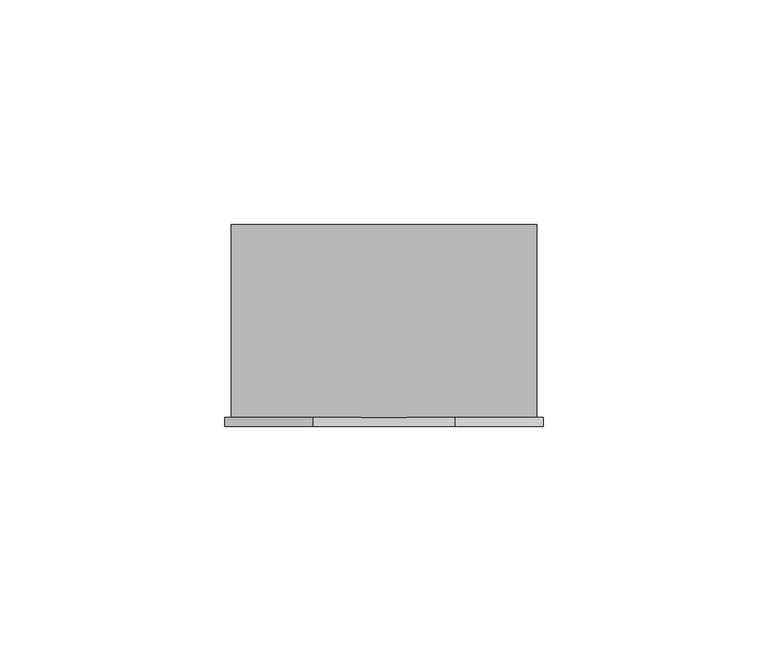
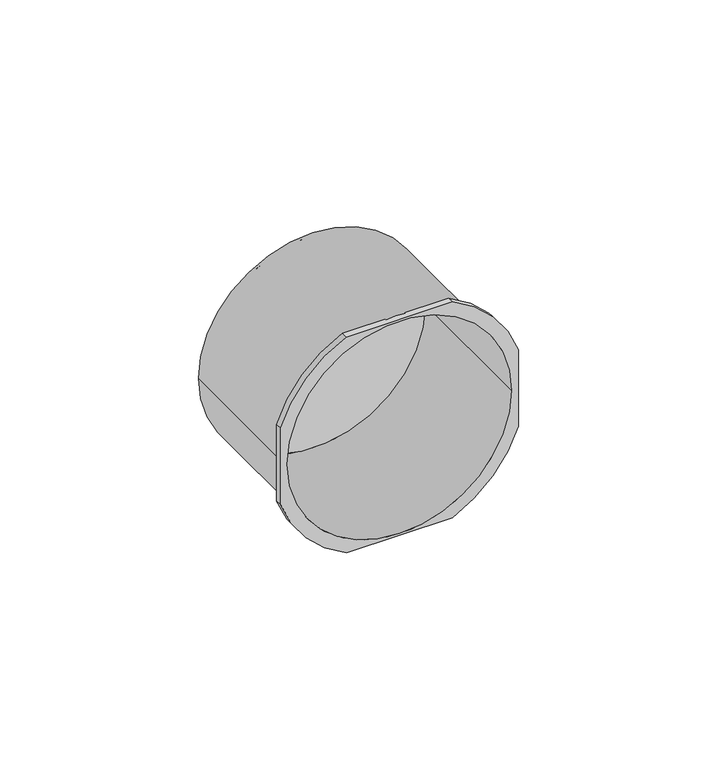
"""IFC4 building model written with IfcOpenShell, lengths in millimetres: proxy geometry."""

import ifcopenshell
import ifcopenshell.guid

model = None  # the IFC model being written
_history = None  # IfcOwnerHistory: only IFC2X3 demands one
_inside = {}  # id of a spatial element -> (the spatial element, [elements in it])
_under = {}  # id of a project, library or spatial element -> (it, [spatial elements below it])
_declared = {}  # id of a project -> (the project, [libraries it declares])
_typed = {}  # id of a type object -> (the type object, [elements of that type])
_made_of = {}  # id of a material, layer set ... -> (it, [elements and type objects made of it])


def new_model(schema):
    """Start an empty IFC model of exactly this schema.

    Asked for "IFC4X3", IfcOpenShell would pick the latest addendum, in which some entities
    have other attributes; the version numbers below select the first issue.
    IFC2X3 requires an IfcOwnerHistory on every rooted entity: one is made here for all.
    """
    global model, _history
    if schema == "IFC4X3":
        model = ifcopenshell.file(schema_version=(4, 3, 0, 0))
    else:
        model = ifcopenshell.file(schema=schema)
    _inside.clear()
    _under.clear()
    _declared.clear()
    _typed.clear()
    _made_of.clear()
    _history = None
    if model.schema == "IFC2X3":
        org = make("IfcOrganization", Name="unknown")
        user = make(
            "IfcPersonAndOrganization",
            ThePerson=make("IfcPerson", FamilyName="unknown"),
            TheOrganization=org,
        )
        app = make(
            "IfcApplication",
            ApplicationDeveloper=org,
            Version="unknown",
            ApplicationFullName="unknown",
            ApplicationIdentifier="unknown",
        )
        _history = make(
            "IfcOwnerHistory",
            OwningUser=user,
            OwningApplication=app,
            ChangeAction="ADDED",
            CreationDate=0,
        )
    return model


def make(cls, **values):
    """One entity of the class cls with the attributes given. An attribute that is None is left unset."""
    return model.create_entity(
        cls, **{name: value for name, value in values.items() if value is not None}
    )


def rooted(cls, **values):
    """An entity with a GlobalId (a new one), such as an element, a storey or a relation."""
    return make(cls, GlobalId=ifcopenshell.guid.new(), OwnerHistory=_history, **values)


def si_unit(unit_type, name, prefix=None):
    """IfcSIUnit, for example si_unit("LENGTHUNIT", "METRE", prefix="MILLI")."""
    return make("IfcSIUnit", UnitType=unit_type, Prefix=prefix, Name=name)


def assignment(units):
    """IfcUnitAssignment: the units of a project."""
    return None if units is None else make("IfcUnitAssignment", Units=units)


def point(xyz):
    """IfcCartesianPoint."""
    return None if xyz is None else make("IfcCartesianPoint", Coordinates=xyz)


def direction(xyz):
    """IfcDirection."""
    return None if xyz is None else make("IfcDirection", DirectionRatios=xyz)


def frame(location, z_axis=None, x_axis=None):
    """IfcAxis2Placement3D, a coordinate frame: its origin and axes. An axis left out is left unset."""
    return make(
        "IfcAxis2Placement3D",
        Location=point(location),
        Axis=direction(z_axis),
        RefDirection=direction(x_axis),
    )


def origin():
    """The frame at (0, 0, 0) with its axes left unset."""
    return frame((0.0, 0.0, 0.0))


def place(relative_to, where):
    """IfcLocalPlacement: puts the frame where relative to a parent placement (None: the world)."""
    return make(
        "IfcLocalPlacement", PlacementRelTo=relative_to, RelativePlacement=where
    )


def context(
    kind, dimensions, precision=None, world=None, true_north=None, identifier=None
):
    """IfcGeometricRepresentationContext, for example the 3D "Model" context."""
    return make(
        "IfcGeometricRepresentationContext",
        ContextIdentifier=identifier,
        ContextType=kind,
        CoordinateSpaceDimension=dimensions,
        Precision=precision,
        WorldCoordinateSystem=world,
        TrueNorth=true_north,
    )


def project(units=None, contexts=None):
    """IfcProject with its units and contexts."""
    return rooted(
        "IfcProject",
        Name="project",
        RepresentationContexts=contexts,
        UnitsInContext=assignment(units),
    )


def spatial(cls, under=None, at=None, **own):
    """A site, building, storey or space (cls), placed at a placement, below another one or the project."""
    s = rooted(cls, ObjectPlacement=at, **own)
    if under is not None:
        _under.setdefault(under.id(), (under, []))[1].append(s)
    return s


def polyline(points):
    """IfcPolyline through the points."""
    return make("IfcPolyline", Points=[point(p) for p in points])


def circle_curve(where, radius):
    """IfcCircle in the frame where."""
    return make("IfcCircle", Position=where, Radius=radius)


def shape(context_of_items, identifier, shape_type, items):
    """IfcShapeRepresentation: the items that make up one representation, for example the "Body"."""
    return make(
        "IfcShapeRepresentation",
        ContextOfItems=context_of_items,
        RepresentationIdentifier=identifier,
        RepresentationType=shape_type,
        Items=items,
    )


def source(mapping_origin, context_of_items, identifier, shape_type, items):
    """IfcRepresentationMap: a shape defined once, which mapped items show again and again."""
    return make(
        "IfcRepresentationMap",
        MappingOrigin=mapping_origin,
        MappedRepresentation=shape(context_of_items, identifier, shape_type, items),
    )


def transform(
    local_origin,
    x_axis=None,
    y_axis=None,
    z_axis=None,
    scale=None,
    scale2=None,
    scale3=None,
    uniform=True,
):
    """IfcCartesianTransformationOperator3D, or its non-uniform kind. x_axis, y_axis, z_axis: its Axis1, 2, 3."""
    if uniform:
        return make(
            "IfcCartesianTransformationOperator3D",
            Axis1=direction(x_axis),
            Axis2=direction(y_axis),
            LocalOrigin=point(local_origin),
            Scale=scale,
            Axis3=direction(z_axis),
        )
    return make(
        "IfcCartesianTransformationOperator3DnonUniform",
        Axis1=direction(x_axis),
        Axis2=direction(y_axis),
        LocalOrigin=point(local_origin),
        Scale=scale,
        Axis3=direction(z_axis),
        Scale2=scale2,
        Scale3=scale3,
    )


def mapped(mapping_source, mapping_target):
    """IfcMappedItem: shows the shape of a source again, moved by a transform."""
    return make(
        "IfcMappedItem", MappingSource=mapping_source, MappingTarget=mapping_target
    )


def made_of(thing, what):
    """Note that an element or type object is made of a material, layer set ...; save() writes the relation."""
    if what is not None:
        _made_of.setdefault(what.id(), (what, []))[1].append(thing)
    return thing


def element(
    cls,
    number,
    at=None,
    inside=None,
    cuts=None,
    type_object=None,
    material=None,
    context=None,
    identifier="Body",
    shape_type=None,
    held_by="IfcProductDefinitionShape",
    body=None,
    shapes=None,
    **own,
):
    """One element of the class cls, such as IfcWall. Its Tag is "e" and its number.

    at: its placement. inside: the storey or other place that contains it. cuts: it is an
    opening in that element (IfcRelVoidsElement). A single representation is given by context,
    identifier, shape_type and body (its items); several are given by shapes. held_by: the class
    of the entity that holds the representations. save() writes the other relations.
    """
    e = rooted(cls, Tag="e%d" % number, ObjectPlacement=at, **own)
    if body is not None:
        shapes = [shape(context, identifier, shape_type, body)]
    if shapes is not None:
        e.Representation = make(held_by, Representations=shapes)
    if inside is not None:
        _inside.setdefault(inside.id(), (inside, []))[1].append(e)
    if cuts is not None:
        rooted(
            "IfcRelVoidsElement", RelatingBuildingElement=cuts, RelatedOpeningElement=e
        )
    if type_object is not None:
        _typed.setdefault(type_object.id(), (type_object, []))[1].append(e)
    return made_of(e, material)


def aggregate(whole, parts):
    """IfcRelAggregates: a whole, such as a stair, and the parts it consists of."""
    return rooted("IfcRelAggregates", RelatingObject=whole, RelatedObjects=parts)


def save(model, path):
    """Write the relations noted so far, then the file.

    IfcRelAggregates (storeys below a building ...), IfcRelContainedInSpatialStructure (elements
    in a storey), IfcRelDefinesByType, IfcRelAssociatesMaterial and IfcRelDeclares: one each for
    every whole, place, type object, material and project.
    """
    for whole, parts in _under.values():
        aggregate(whole, parts)
    for where, things in _inside.values():
        rooted(
            "IfcRelContainedInSpatialStructure",
            RelatedElements=things,
            RelatingStructure=where,
        )
    for kind, things in _typed.values():
        rooted("IfcRelDefinesByType", RelatedObjects=things, RelatingType=kind)
    for what, things in _made_of.values():
        rooted("IfcRelAssociatesMaterial", RelatedObjects=things, RelatingMaterial=what)
    for by, libraries in _declared.values():
        rooted("IfcRelDeclares", RelatingContext=by, RelatedDefinitions=libraries)
    model.write(path)


def plane_surface(at):
    """IfcPlane: the flat surface through the origin of the frame at, square to its z axis."""
    return make("IfcPlane", Position=at)


def cylinder_surface(at, radius):
    """IfcCylindricalSurface: all points at the distance radius from the z axis of the frame at."""
    return make("IfcCylindricalSurface", Position=at, Radius=radius)


def revolved_surface(curve, axis_point, axis_direction):
    """IfcSurfaceOfRevolution: the curve turned about the line through axis_point along axis_direction."""
    return make(
        "IfcSurfaceOfRevolution",
        SweptCurve=make("IfcArbitraryOpenProfileDef", ProfileType="CURVE", Curve=curve),
        AxisPosition=make("IfcAxis1Placement", Location=point(axis_point), Axis=direction(axis_direction)),
    )


def advanced_brep(points, edges, surfaces, faces):
    """IfcAdvancedBrep: a solid bounded by faces that lie on surfaces and meet in shared edges.

    An edge is (start, end): straight between two places in points (the first is 0);
    or (start, end, curve); or (start, end, curve, False) where it runs against its curve.
    A face is (place in surfaces, loops), or (place, loops, False) where it looks against
    its surface's normal. A loop lists edges by number (the first is 1), with a minus sign
    where the edge is run from its end to its start. The first loop is the outer one.
    """
    corners = [point(p) for p in points]
    vertices = [make("IfcVertexPoint", VertexGeometry=c) for c in corners]
    made = []
    for start, end, *more in edges:
        made.append(
            make(
                "IfcEdgeCurve",
                EdgeStart=vertices[start],
                EdgeEnd=vertices[end],
                EdgeGeometry=more[0] if more else make("IfcPolyline", Points=[corners[start], corners[end]]),
                SameSense=more[1] if len(more) > 1 else True,
            )
        )
    hull = []
    for where, loops, *sense in faces:
        bounds = []
        for j, loop in enumerate(loops):
            ring = [make("IfcOrientedEdge", EdgeElement=made[abs(k) - 1], Orientation=k > 0) for k in loop]
            bounds.append(
                make(
                    "IfcFaceOuterBound" if j == 0 else "IfcFaceBound",
                    Bound=make("IfcEdgeLoop", EdgeList=ring),
                    Orientation=True,
                )
            )
        hull.append(make("IfcAdvancedFace", Bounds=bounds, FaceSurface=surfaces[where], SameSense=sense[0] if sense else True))
    return make("IfcAdvancedBrep", Outer=make("IfcClosedShell", CfsFaces=hull))


def electrical_fixtures_96f9c914(model_context):
    return source(origin(), model_context, "Body", "AdvancedBrep", [
        advanced_brep(
        [(-33.5, 9.8, 0.0), (33.5, 9.8, 0.0), (33.5, -34.7, 0.0), (-33.5, -34.7, 0.0), (-34.0, 10.3, 0.0), (34.0, 10.3, 0.0), (-15.8034878, -34.7, 34.0), (-35.5, -34.7, 12.0623474), (-35.5, -34.7, -12.0623474), (-15.8034878, -34.7, -34.0), (15.8034878, -34.7, -34.0), (35.5, -34.7, -12.0623474), (35.5, -34.7, 12.0623474), (15.8034878, -34.7, 34.0), (-34.0, -32.7, 0.0), (0.0, -32.7, 34.0), (34.0, -32.7, 0.0), (0.0, -32.7, -34.0), (15.8034878, -32.7, 34.0), (35.5, -32.7, 12.0623474), (35.5, -32.7, -12.0623474), (15.8034878, -32.7, -34.0), (-15.8034878, -32.7, -34.0), (-35.5, -32.7, -12.0623474), (-35.5, -32.7, 12.0623474), (-15.8034878, -32.7, 34.0)],
        [
            (0, 1, circle_curve(frame((0.0, 9.8, 0.0), z_axis=(0.0, -1.0, 0.0), x_axis=(1.0, 0.0, 0.0)), 33.5)),
            (1, 0, circle_curve(frame((0.0, 9.8, 0.0), z_axis=(0.0, -1.0, 0.0), x_axis=(1.0, 0.0, 0.0)), 33.5)),
            (1, 2),
            (2, 3, circle_curve(frame((0.0, -34.7, 0.0), z_axis=(0.0, -1.0, 0.0), x_axis=(1.0, 0.0, 0.0)), 33.5)),
            (3, 0),
            (3, 2, circle_curve(frame((0.0, -34.7, 0.0), z_axis=(0.0, -1.0, 0.0), x_axis=(1.0, 0.0, 0.0)), 33.5)),
            (4, 5, circle_curve(frame((0.0, 10.3, 0.0), z_axis=(0.0, 1.0, 0.0), x_axis=(1.0, 0.0, 0.0)), 34.0)),
            (5, 4, circle_curve(frame((0.0, 10.3, 0.0), z_axis=(0.0, 1.0, 0.0), x_axis=(1.0, 0.0, 0.0)), 34.0)),
            (6, 7, circle_curve(frame((0.0, -34.7, 0.0), z_axis=(0.0, -1.0, 0.0), x_axis=(1.0, 0.0, 0.0)), 37.4933357)),
            (7, 8),
            (8, 9, circle_curve(frame((0.0, -34.7, 0.0), z_axis=(0.0, -1.0, 0.0), x_axis=(1.0, 0.0, 0.0)), 37.4933357)),
            (9, 10),
            (10, 11, circle_curve(frame((0.0, -34.7, 0.0), z_axis=(0.0, -1.0, 0.0), x_axis=(1.0, 0.0, 0.0)), 37.4933357)),
            (11, 12),
            (12, 13, circle_curve(frame((0.0, -34.7, 0.0), z_axis=(0.0, -1.0, 0.0), x_axis=(1.0, 0.0, 0.0)), 37.4933357)),
            (13, 6),
            (4, 14),
            (14, 15, circle_curve(frame((0.0, -32.7, 0.0), z_axis=(0.0, 1.0, 0.0), x_axis=(1.0, 0.0, 0.0)), 34.0)),
            (15, 16, circle_curve(frame((0.0, -32.7, 0.0), z_axis=(0.0, 1.0, 0.0), x_axis=(1.0, 0.0, 0.0)), 34.0)),
            (16, 5),
            (16, 17, circle_curve(frame((0.0, -32.7, 0.0), z_axis=(0.0, 1.0, 0.0), x_axis=(1.0, 0.0, 0.0)), 34.0)),
            (17, 14, circle_curve(frame((0.0, -32.7, 0.0), z_axis=(0.0, 1.0, 0.0), x_axis=(1.0, 0.0, 0.0)), 34.0)),
            (18, 19, circle_curve(frame((0.0, -32.7, 0.0), z_axis=(0.0, 1.0, 0.0), x_axis=(1.0, 0.0, 0.0)), 37.4933357)),
            (19, 20),
            (20, 21, circle_curve(frame((0.0, -32.7, 0.0), z_axis=(0.0, 1.0, 0.0), x_axis=(1.0, 0.0, 0.0)), 37.4933357)),
            (21, 17),
            (15, 18),
            (22, 23, circle_curve(frame((0.0, -32.7, 0.0), z_axis=(0.0, 1.0, 0.0), x_axis=(1.0, 0.0, 0.0)), 37.4933357)),
            (23, 24),
            (24, 25, circle_curve(frame((0.0, -32.7, 0.0), z_axis=(0.0, 1.0, 0.0), x_axis=(1.0, 0.0, 0.0)), 37.4933357)),
            (25, 15),
            (17, 22),
            (25, 6),
            (13, 18),
            (12, 19),
            (11, 20),
            (10, 21),
            (9, 22),
            (8, 23),
            (7, 24),
        ],
        [
            plane_surface(frame((33.5, 9.8, 0.0), z_axis=(0.0, -1.0, 0.0), x_axis=(0.0, 0.0, -1.0))),
            revolved_surface(polyline([(33.5, 9.799999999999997, 0.0), (33.5, -34.7, 0.0)]), (0.0, -34.7, 0.0), (0.0, 1.0, 0.0)),
            plane_surface(frame((34.0, 10.3, 0.0), z_axis=(0.0, 1.0, 0.0), x_axis=(0.0, 0.0, -1.0))),
            plane_surface(frame((34.0, -34.7, 0.0), z_axis=(0.0, -1.0, 0.0), x_axis=(0.0, 0.0, 1.0))),
            cylinder_surface(frame((0.0, -34.7, 0.0), z_axis=(0.0, 1.0, 0.0), x_axis=(1.0, 0.0, 0.0)), 34.0),
            plane_surface(frame((-23.0053863, -32.7, 34.0), z_axis=(0.0, 1.0, 0.0), x_axis=(1.0, 0.0, 0.0))),
            plane_surface(frame((-15.8034878, -32.7, 34.0), z_axis=(0.0, 0.0, 1.0), x_axis=(0.0, -1.0, 0.0))),
            cylinder_surface(frame((0.0, -34.7, 0.0), z_axis=(0.0, 1.0, 0.0), x_axis=(1.0, 0.0, 0.0)), 37.4933357),
            plane_surface(frame((35.5, -32.7, 12.0623474), z_axis=(1.0, 0.0, 0.0), x_axis=(0.0, -1.0, 0.0))),
            plane_surface(frame((15.8034878, -32.7, -34.0), z_axis=(0.0, 0.0, -1.0), x_axis=(0.0, -1.0, 0.0))),
            plane_surface(frame((-35.5, -32.7, -12.0623474), z_axis=(-1.0, 0.0, 0.0), x_axis=(0.0, -1.0, 0.0))),
        ],
        [
            (0, [[1, 2]]),
            (1, [[-2, 3, 4, 5]]),
            (1, [[-1, -5, 6, -3]]),
            (2, [[7, 8]]),
            (3, [[9, 10, 11, 12, 13, 14, 15, 16], [-4, -6]]),
            (4, [[-7, 17, 18, 19, 20]]),
            (4, [[-8, -20, 21, 22, -17]]),
            (5, [[23, 24, 25, 26, -21, -19, 27]]),
            (5, [[28, 29, 30, 31, -18, -22, 32]]),
            (6, [[33, -16, 34, -27, -31]]),
            (7, [[-23, -34, -15, 35]]),
            (8, [[-24, -35, -14, 36]]),
            (7, [[-25, -36, -13, 37]]),
            (9, [[-37, -12, 38, -32, -26]]),
            (7, [[-28, -38, -11, 39]]),
            (10, [[-29, -39, -10, 40]]),
            (7, [[-30, -40, -9, -33]]),
        ],
    ),
    ])


if __name__ == "__main__":
    model = new_model("IFC4")
    model_context = context("Model", 3, world=origin())
    ifc_project = project(units=[si_unit("LENGTHUNIT", "METRE", prefix="MILLI")], contexts=[model_context])
    site = spatial("IfcSite", under=ifc_project)
    building = spatial("IfcBuilding", under=site)
    placement = place(None, origin())
    electrical_fixtures_shape = electrical_fixtures_96f9c914(model_context)
    element("IfcBuildingElementProxy", 1, Name="Electrical Fixtures", at=placement, inside=building, context=model_context, shape_type="MappedRepresentation", body=[
        mapped(electrical_fixtures_shape, transform((0.0, 0.0, 0.0), x_axis=(1.0, 0.0, 0.0), y_axis=(0.0, 1.0, 0.0), z_axis=(0.0, 0.0, 1.0))),
    ])
    save(model, "model.ifc")
